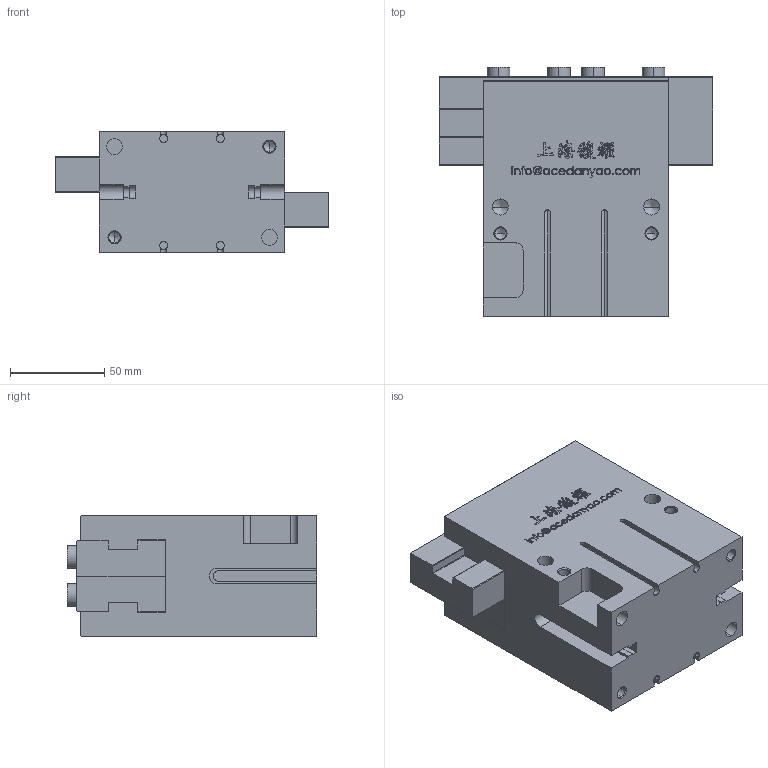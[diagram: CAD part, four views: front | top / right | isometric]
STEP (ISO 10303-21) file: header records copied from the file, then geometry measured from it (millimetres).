
FILE_DESCRIPTION (( 'STEP AP203' ), '1' );
FILE_NAME ('PEP-56-C1-VT-原始檔-組合-W106.04.20.STEP', '2017-04-20T03:47:17', ( 'DanyaoCAD' ), ( '' ), 'SwSTEP 2.0', 'SolidWorks 2016', '' );
FILE_SCHEMA (( 'CONFIG_CONTROL_DESIGN' ));
Length unit declared in the file: millimetre
Products named in the file (3): Griffa; Corpo; PEP-56-C1-VT-原始檔-組合-W106.04.20
Assembly tree (3 placements, depth 2):
  PEP-56-C1-VT-原始檔-組合-W106.04.20
    Griffa  x2
    Corpo
Bounding box: 145 x 132 x 64 mm (x, y, z)
Volume: 778072.1 mm3; surface area: 113959.6 mm2
Topology: 3 solids, 3 shells, 1051 faces, 2915 edges, 1908 vertices
Faces by surface type: bspline 640, plane 262, cylinder 98, cone 51
Entity records: 48584 total; most frequent: CARTESIAN_POINT 26946, ORIENTED_EDGE 5546, EDGE_CURVE 2773, DIRECTION 2383, VERTEX_POINT 1839, VECTOR 1303, LINE 1303, B_SPLINE_CURVE_WITH_KNOTS 1300
